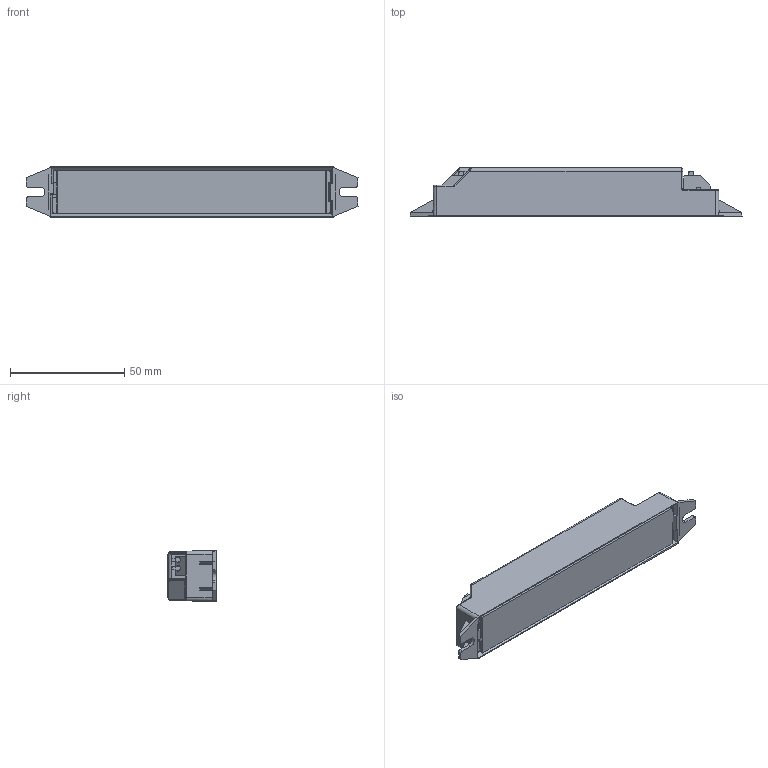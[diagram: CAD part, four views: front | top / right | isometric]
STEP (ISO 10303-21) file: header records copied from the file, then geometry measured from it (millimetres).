
FILE_DESCRIPTION((''),'2;1');
FILE_NAME('LC_10_200-350_29_FLEXC_LP_SNC4','2022-01-26T10:34:59',('elon.guo'),(''),'CREO PARAMETRIC BY PTC INC, 2021184','CREO PARAMETRIC BY PTC INC, 2021184','');
FILE_SCHEMA(('CONFIG_CONTROL_DESIGN'));
Length unit declared in the file: millimetre
Products named in the file (1): LC_10_200-350_29_FLEXC_LP_SNC4
Bounding box: 145 x 21 x 22.2 mm (x, y, z)
Volume: 29478.5 mm3; surface area: 34104.2 mm2
Topology: 4 solids, 4 shells, 776 faces, 2019 edges, 1307 vertices
Faces by surface type: plane 607, cylinder 120, bspline 39, torus 6, cone 2, sphere 2
Entity records: 25164 total; most frequent: CARTESIAN_POINT 6443, ORIENTED_EDGE 4026, DIRECTION 3493, EDGE_CURVE 2013, VECTOR 1651, LINE 1651, VERTEX_POINT 1307, AXIS2_PLACEMENT_3D 921
